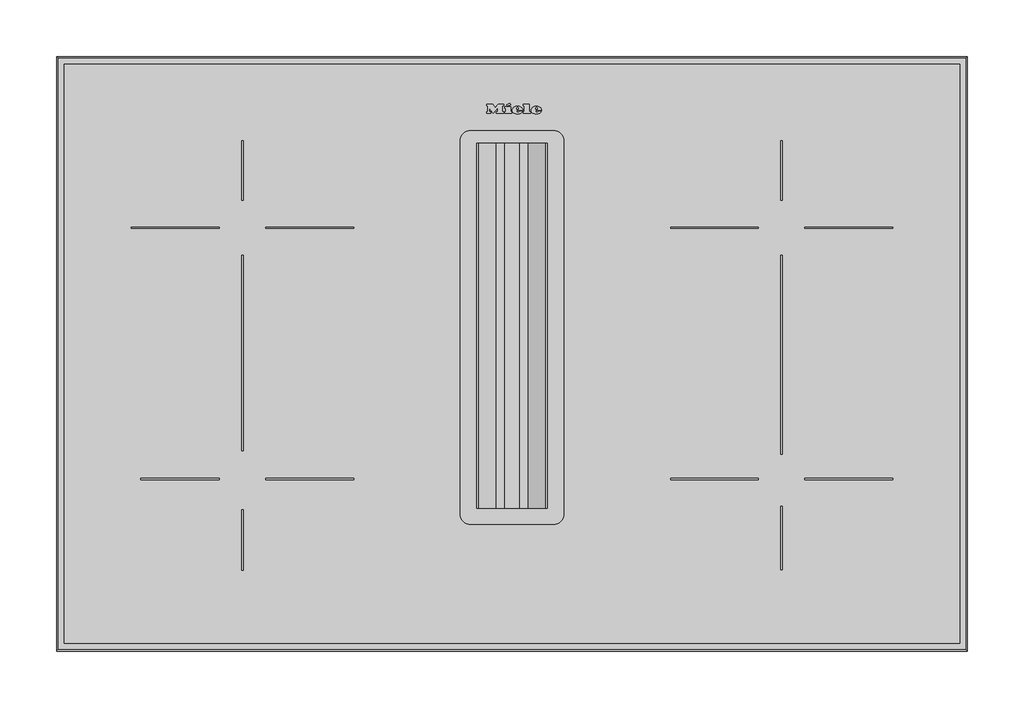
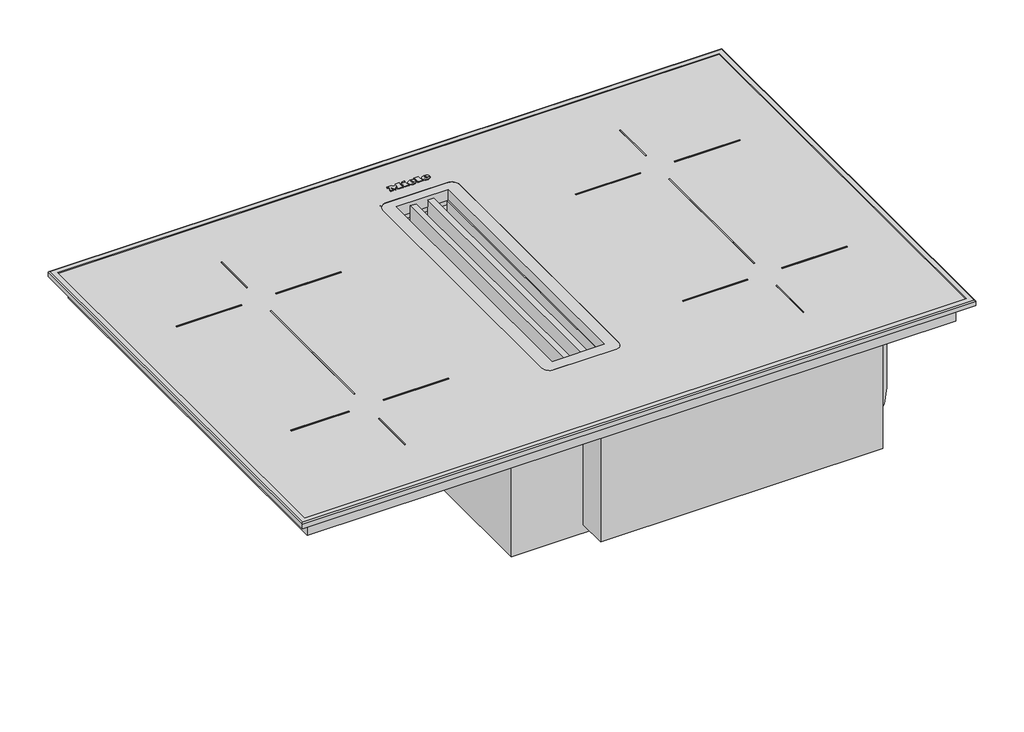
# Not in any storey: 1 proxy.
"""IFC4 building model written with IfcOpenShell, lengths in millimetres."""

from ifc_helpers import new_model, si_unit, origin, place, context, project, spatial, transform, mapped, element, save
from components import specialty_equipment_97d2a497

model = new_model("IFC4")

# Units and contexts
model_context = context("Model", 3, world=origin())
ifc_project = project(units=[si_unit("LENGTHUNIT", "METRE", prefix="MILLI")], contexts=[model_context])

# Site, building
site = spatial("IfcSite", under=ifc_project)
building = spatial("IfcBuilding", under=site)

# Proxy
placement = place(None, origin())
specialty_equipment_shape = specialty_equipment_97d2a497(model_context)
element("IfcBuildingElementProxy", 1, Name="12266150_BNE_KMDA7473FR-U : 26747309_BNE_12266150_KMDA7473FR-U", ObjectType="12266150_BNE_KMDA7473FR-U : 26747309_BNE_12266150_KMDA7473FR-U", at=placement, inside=building, context=model_context, shape_type="MappedRepresentation", body=[
    mapped(specialty_equipment_shape, transform((0.0, 0.0, 0.0), x_axis=(1.0, 0.0, 0.0), y_axis=(0.0, 1.0, 0.0), z_axis=(0.0, 0.0, 1.0))),
])

save(model, "model.ifc")
